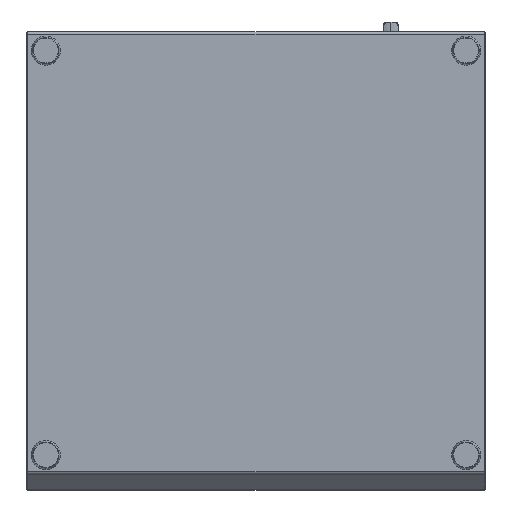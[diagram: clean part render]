
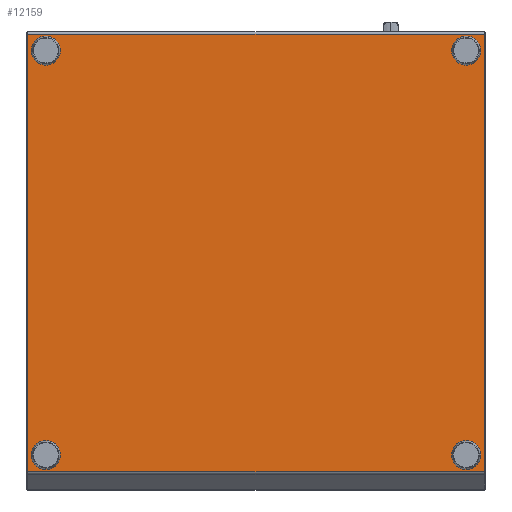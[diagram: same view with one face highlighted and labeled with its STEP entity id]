
A CAD part, front view. The second image highlights one B-rep face of the part: STEP entity #12159.
In plain terms, the highlighted planar face has unit normal (0, -1, 0).
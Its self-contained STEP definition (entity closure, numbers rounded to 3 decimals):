
#1059 = EDGE_LOOP ( 'NONE', ( #11430, #11105 ) ) ;
#1069 = VERTEX_POINT ( 'NONE', #17517 ) ;
#1115 = VERTEX_POINT ( 'NONE', #17419 ) ;
#1444 = EDGE_LOOP ( 'NONE', ( #11443, #11446 ) ) ;
#1532 = EDGE_LOOP ( 'NONE', ( #11448, #10810 ) ) ;
#1682 = EDGE_LOOP ( 'NONE', ( #10805, #11440 ) ) ;
#1885 = VERTEX_POINT ( 'NONE', #16878 ) ;
#1901 = VERTEX_POINT ( 'NONE', #17250 ) ;
#1942 = EDGE_LOOP ( 'NONE', ( #11124, #11107, #10815, #11203 ) ) ;
#2146 = EDGE_CURVE ( 'NONE', #11069, #10929, #7308, .T. ) ;
#2155 = EDGE_CURVE ( 'NONE', #11072, #10925, #7368, .T. ) ;
#2186 = EDGE_CURVE ( 'NONE', #10925, #11072, #7353, .T. ) ;
#2329 = EDGE_CURVE ( 'NONE', #11352, #11007, #7374, .T. ) ;
#2358 = EDGE_CURVE ( 'NONE', #10929, #11069, #7075, .T. ) ;
#2383 = EDGE_CURVE ( 'NONE', #11131, #11251, #7168, .T. ) ;
#2450 = EDGE_CURVE ( 'NONE', #11007, #11352, #7403, .T. ) ;
#4108 = CARTESIAN_POINT ( 'NONE',  ( 275., -230.003, 270.445 ) ) ;
#4160 = CARTESIAN_POINT ( 'NONE',  ( 275., -230.003, 279.555 ) ) ;
#4226 = CARTESIAN_POINT ( 'NONE',  ( 275., -230.003, -258.781 ) ) ;
#4264 = CARTESIAN_POINT ( 'NONE',  ( -275., -230.003, 270.445 ) ) ;
#4268 = CARTESIAN_POINT ( 'NONE',  ( -275., -230.003, 279.555 ) ) ;
#4384 = CARTESIAN_POINT ( 'NONE',  ( -275., -230.003, -249.671 ) ) ;
#4475 = CARTESIAN_POINT ( 'NONE',  ( -275., -230.003, -258.781 ) ) ;
#4741 = CARTESIAN_POINT ( 'NONE',  ( 275., -230.003, -249.671 ) ) ;
#4954 = CARTESIAN_POINT ( 'NONE',  ( -275., -230.003, -254.226 ) ) ;
#4956 = DIRECTION ( 'NONE',  ( 0., 0., -1. ) ) ;
#4964 = DIRECTION ( 'NONE',  ( 0., 1., 0. ) ) ;
#5019 = CARTESIAN_POINT ( 'NONE',  ( 275., -230.003, 275. ) ) ;
#5138 = DIRECTION ( 'NONE',  ( 0., 0., -1. ) ) ;
#5139 = DIRECTION ( 'NONE',  ( 0., 1., 0. ) ) ;
#5149 = CARTESIAN_POINT ( 'NONE',  ( 275., -230.003, -254.226 ) ) ;
#5335 = DIRECTION ( 'NONE',  ( 0., 0., -1. ) ) ;
#5393 = DIRECTION ( 'NONE',  ( 0., 0., -1. ) ) ;
#5394 = DIRECTION ( 'NONE',  ( 0., 1., 0. ) ) ;
#5400 = CARTESIAN_POINT ( 'NONE',  ( -275., -230.003, -254.226 ) ) ;
#5543 = DIRECTION ( 'NONE',  ( 0., 1., 0. ) ) ;
#6787 = EDGE_CURVE ( 'NONE', #1115, #1885, #9059, .T. ) ;
#6799 = EDGE_CURVE ( 'NONE', #1069, #1115, #8745, .T. ) ;
#6826 = EDGE_CURVE ( 'NONE', #1901, #1069, #8342, .T. ) ;
#6828 = EDGE_CURVE ( 'NONE', #1885, #1901, #8558, .T. ) ;
#7008 = EDGE_CURVE ( 'NONE', #11251, #11131, #7252, .T. ) ;
#7075 = CIRCLE ( 'NONE', #13469, 4.555 ) ;
#7168 = CIRCLE ( 'NONE', #13252, 4.555 ) ;
#7252 = CIRCLE ( 'NONE', #12877, 4.555 ) ;
#7308 = CIRCLE ( 'NONE', #11691, 4.555 ) ;
#7353 = CIRCLE ( 'NONE', #11702, 4.555 ) ;
#7368 = CIRCLE ( 'NONE', #11678, 4.555 ) ;
#7374 = CIRCLE ( 'NONE', #13713, 4.555 ) ;
#7403 = CIRCLE ( 'NONE', #13428, 4.555 ) ;
#7870 = PLANE ( 'NONE',  #13082 ) ;
#7872 = CARTESIAN_POINT ( 'NONE',  ( 300., -230.003, 0. ) ) ;
#7876 = DIRECTION ( 'NONE',  ( 0., -1., 0. ) ) ;
#7885 = DIRECTION ( 'NONE',  ( 0., 0., -1. ) ) ;
#8340 = DIRECTION ( 'NONE',  ( 0., 0., 1. ) ) ;
#8341 = CARTESIAN_POINT ( 'NONE',  ( 298.5, -230.003, 0. ) ) ;
#8342 = LINE ( 'NONE', #8341, #13207 ) ;
#8489 = DIRECTION ( 'NONE',  ( 0., 0., -1. ) ) ;
#8494 = DIRECTION ( 'NONE',  ( 0., 1., 0. ) ) ;
#8498 = CARTESIAN_POINT ( 'NONE',  ( -275., -230.003, 275. ) ) ;
#8558 = LINE ( 'NONE', #8591, #13273 ) ;
#8591 = CARTESIAN_POINT ( 'NONE',  ( 300., -230.003, -275.822 ) ) ;
#8615 = DIRECTION ( 'NONE',  ( 0., 0., -1. ) ) ;
#8619 = DIRECTION ( 'NONE',  ( 0., 1., 0. ) ) ;
#8626 = CARTESIAN_POINT ( 'NONE',  ( 275., -230.003, -254.226 ) ) ;
#8669 = DIRECTION ( 'NONE',  ( 0., 1., 0. ) ) ;
#8742 = DIRECTION ( 'NONE',  ( -1., 0., 0. ) ) ;
#8744 = CARTESIAN_POINT ( 'NONE',  ( 300., -230.003, 296.5 ) ) ;
#8745 = LINE ( 'NONE', #8744, #13577 ) ;
#9055 = DIRECTION ( 'NONE',  ( 0., 0., -1. ) ) ;
#9057 = CARTESIAN_POINT ( 'NONE',  ( -298.5, -230.003, 0. ) ) ;
#9059 = LINE ( 'NONE', #9057, #13619 ) ;
#9076 = DIRECTION ( 'NONE',  ( 1., 0., 0. ) ) ;
#9226 = CARTESIAN_POINT ( 'NONE',  ( -275., -230.003, 275. ) ) ;
#10285 = DIRECTION ( 'NONE',  ( 0., 0., -1. ) ) ;
#10805 = ORIENTED_EDGE ( 'NONE', *, *, #2155, .T. ) ;
#10810 = ORIENTED_EDGE ( 'NONE', *, *, #2329, .T. ) ;
#10815 = ORIENTED_EDGE ( 'NONE', *, *, #6799, .T. ) ;
#10925 = VERTEX_POINT ( 'NONE', #4268 ) ;
#10929 = VERTEX_POINT ( 'NONE', #4741 ) ;
#11007 = VERTEX_POINT ( 'NONE', #4475 ) ;
#11069 = VERTEX_POINT ( 'NONE', #4226 ) ;
#11072 = VERTEX_POINT ( 'NONE', #4264 ) ;
#11105 = ORIENTED_EDGE ( 'NONE', *, *, #2383, .T. ) ;
#11107 = ORIENTED_EDGE ( 'NONE', *, *, #6826, .T. ) ;
#11124 = ORIENTED_EDGE ( 'NONE', *, *, #6828, .T. ) ;
#11131 = VERTEX_POINT ( 'NONE', #4160 ) ;
#11203 = ORIENTED_EDGE ( 'NONE', *, *, #6787, .T. ) ;
#11251 = VERTEX_POINT ( 'NONE', #4108 ) ;
#11352 = VERTEX_POINT ( 'NONE', #4384 ) ;
#11430 = ORIENTED_EDGE ( 'NONE', *, *, #7008, .T. ) ;
#11440 = ORIENTED_EDGE ( 'NONE', *, *, #2186, .T. ) ;
#11443 = ORIENTED_EDGE ( 'NONE', *, *, #2146, .T. ) ;
#11446 = ORIENTED_EDGE ( 'NONE', *, *, #2358, .T. ) ;
#11448 = ORIENTED_EDGE ( 'NONE', *, *, #2450, .T. ) ;
#11678 = AXIS2_PLACEMENT_3D ( 'NONE', #8498, #8494, #8489 ) ;
#11691 = AXIS2_PLACEMENT_3D ( 'NONE', #8626, #8619, #8615 ) ;
#11702 = AXIS2_PLACEMENT_3D ( 'NONE', #9226, #8669, #10285 ) ;
#12159 = ADVANCED_FACE ( 'NONE', ( #12816, #13334, #13634, #13744, #13970 ), #7870, .T. ) ;
#12816 = FACE_BOUND ( 'NONE', #1532, .T. ) ;
#12877 = AXIS2_PLACEMENT_3D ( 'NONE', #17775, #17757, #17755 ) ;
#13082 = AXIS2_PLACEMENT_3D ( 'NONE', #7872, #7876, #7885 ) ;
#13207 = VECTOR ( 'NONE', #8340, 1000. ) ;
#13252 = AXIS2_PLACEMENT_3D ( 'NONE', #5019, #4964, #4956 ) ;
#13273 = VECTOR ( 'NONE', #9076, 1000. ) ;
#13334 = FACE_BOUND ( 'NONE', #1682, .T. ) ;
#13428 = AXIS2_PLACEMENT_3D ( 'NONE', #4954, #5543, #5335 ) ;
#13469 = AXIS2_PLACEMENT_3D ( 'NONE', #5149, #5139, #5138 ) ;
#13577 = VECTOR ( 'NONE', #8742, 1000. ) ;
#13619 = VECTOR ( 'NONE', #9055, 1000. ) ;
#13634 = FACE_BOUND ( 'NONE', #1444, .T. ) ;
#13713 = AXIS2_PLACEMENT_3D ( 'NONE', #5400, #5394, #5393 ) ;
#13744 = FACE_BOUND ( 'NONE', #1059, .T. ) ;
#13970 = FACE_OUTER_BOUND ( 'NONE', #1942, .T. ) ;
#16878 = CARTESIAN_POINT ( 'NONE',  ( -298.5, -230.003, -275.822 ) ) ;
#17250 = CARTESIAN_POINT ( 'NONE',  ( 298.5, -230.003, -275.822 ) ) ;
#17419 = CARTESIAN_POINT ( 'NONE',  ( -298.5, -230.003, 296.5 ) ) ;
#17517 = CARTESIAN_POINT ( 'NONE',  ( 298.5, -230.003, 296.5 ) ) ;
#17755 = DIRECTION ( 'NONE',  ( 0., 0., -1. ) ) ;
#17757 = DIRECTION ( 'NONE',  ( 0., 1., 0. ) ) ;
#17775 = CARTESIAN_POINT ( 'NONE',  ( 275., -230.003, 275. ) ) ;
